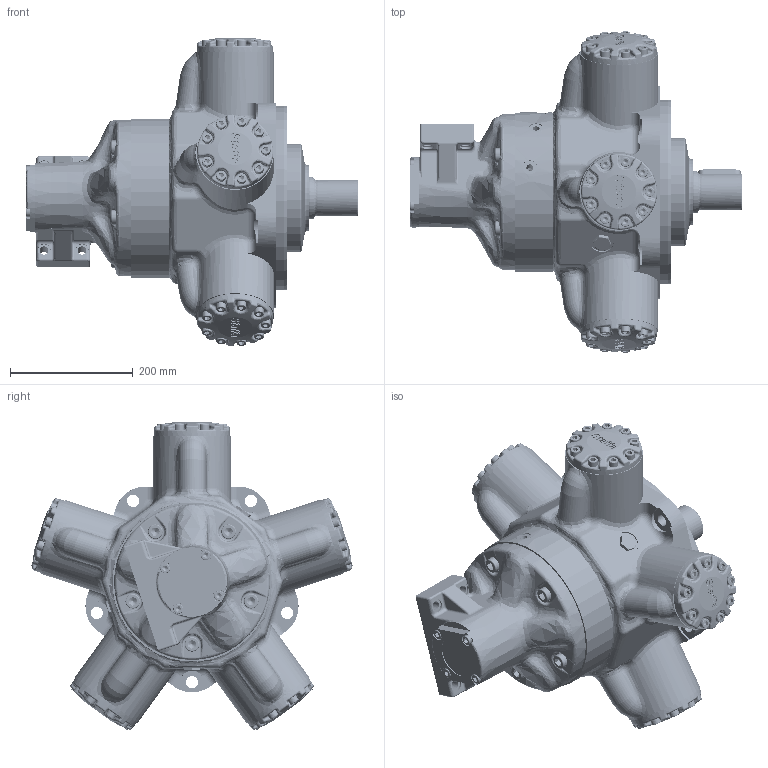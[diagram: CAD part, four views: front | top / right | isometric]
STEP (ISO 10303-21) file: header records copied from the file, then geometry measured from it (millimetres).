
FILE_DESCRIPTION(/* description */ (''),/* implementation_level */ '2;1');
FILE_NAME(/* name */ 'K:\3D MODELS\HMF100 P SM3 X 10.stp',/* time_stamp */ '2017-05-16T14:33:21+01:00',/* author */ ('mnorman'),/* organization */ (''),/* preprocessor_version */ 'ST-DEVELOPER v16.5',/* originating_system */ 'Autodesk Inventor 2017',/* authorisation */ '');
FILE_SCHEMA (('AUTOMOTIVE_DESIGN { 1 0 10303 214 3 1 1 }'));
Length unit declared in the file: millimetre
Products named in the file (1): HMF100 P SM3 X 10
Bounding box: 541.64 x 524.38 x 502.42 mm (x, y, z)
Volume: 17692244.1 mm3; surface area: 1679507.5 mm2
Topology: 2 solids, 131 shells, 5793 faces, 13396 edges, 7815 vertices
Faces by surface type: bspline 1639, plane 1508, cylinder 1458, torus 635, cone 333, sphere 220
Full cylindrical faces by diameter (mm): 3 x3, 6 x4, 6.2 x2, 8.382 x57, 10 x55, 10.5 x45, 10.8 x10, 11.328 x1, 11.445 x3, 12.7 x1, 14 x4, 14.351 x5, 15.875 x5, 16 x59, 16.272 x5, 16.5 x45, 16.51 x1, 16.7 x5, 17 x10, 19.05 x3, 20 x5, 21 x4, 21.996 x5, 22.2 x5, 22.225 x10, 23.825 x5, 24 x3, 25.4 x5, 27.661 x5, 27.68 x5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
Entity records: 228741 total; most frequent: CARTESIAN_POINT 107871, ORIENTED_EDGE 23524, DIRECTION 22316, EDGE_CURVE 11717, AXIS2_PLACEMENT_3D 9366, VERTEX_POINT 7245, EDGE_LOOP 7079, FACE_OUTER_BOUND 5793
